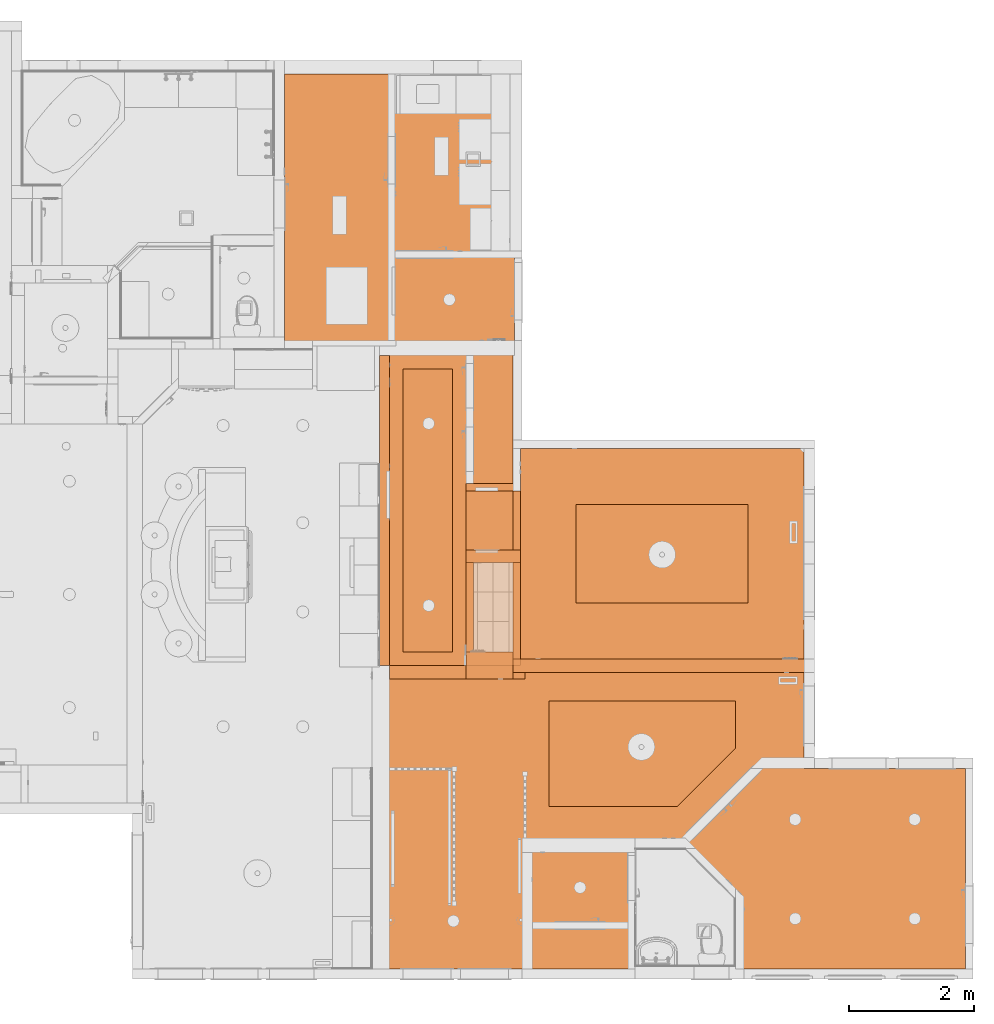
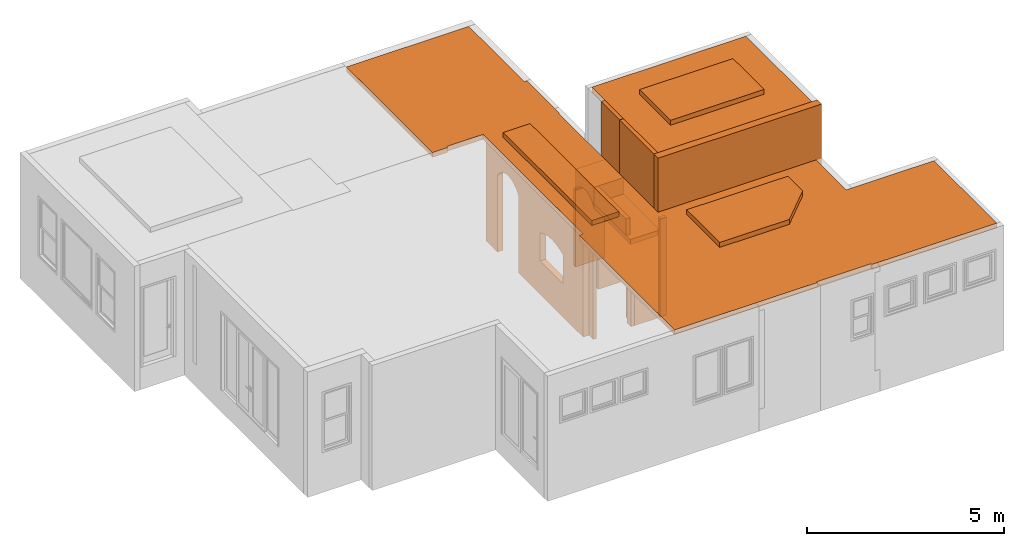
# One storey, part 83 of 103: 17 proxies.
"""IFC2X3 building model written with IfcOpenShell, lengths in inches."""

import ifcopenshell
import ifcopenshell.guid

model = None  # the IFC model being written
_history = None  # IfcOwnerHistory: only IFC2X3 demands one
_inside = {}  # id of a spatial element -> (the spatial element, [elements in it])
_under = {}  # id of a project, library or spatial element -> (it, [spatial elements below it])
_declared = {}  # id of a project -> (the project, [libraries it declares])
_typed = {}  # id of a type object -> (the type object, [elements of that type])
_made_of = {}  # id of a material, layer set ... -> (it, [elements and type objects made of it])


def new_model(schema):
    """Start an empty IFC model of exactly this schema.

    Asked for "IFC4X3", IfcOpenShell would pick the latest addendum, in which some entities
    have other attributes; the version numbers below select the first issue.
    IFC2X3 requires an IfcOwnerHistory on every rooted entity: one is made here for all.
    """
    global model, _history
    if schema == "IFC4X3":
        model = ifcopenshell.file(schema_version=(4, 3, 0, 0))
    else:
        model = ifcopenshell.file(schema=schema)
    _inside.clear()
    _under.clear()
    _declared.clear()
    _typed.clear()
    _made_of.clear()
    _history = None
    if model.schema == "IFC2X3":
        org = make("IfcOrganization", Name="unknown")
        user = make(
            "IfcPersonAndOrganization",
            ThePerson=make("IfcPerson", FamilyName="unknown"),
            TheOrganization=org,
        )
        app = make(
            "IfcApplication",
            ApplicationDeveloper=org,
            Version="unknown",
            ApplicationFullName="unknown",
            ApplicationIdentifier="unknown",
        )
        _history = make(
            "IfcOwnerHistory",
            OwningUser=user,
            OwningApplication=app,
            ChangeAction="ADDED",
            CreationDate=0,
        )
    return model


def make(cls, **values):
    """One entity of the class cls with the attributes given. An attribute that is None is left unset."""
    return model.create_entity(
        cls, **{name: value for name, value in values.items() if value is not None}
    )


def entity(cls, *values):
    """Any entity or typed value of the class cls, its attributes in the order of the schema. None: left unset."""
    e = model.create_entity(cls)
    for i, value in enumerate(values):
        if value is not None:
            e[i] = value
    return e


def rooted(cls, **values):
    """An entity with a GlobalId (a new one), such as an element, a storey or a relation."""
    return make(cls, GlobalId=ifcopenshell.guid.new(), OwnerHistory=_history, **values)


def si_unit(unit_type, name, prefix=None):
    """IfcSIUnit, for example si_unit("LENGTHUNIT", "METRE", prefix="MILLI")."""
    return make("IfcSIUnit", UnitType=unit_type, Prefix=prefix, Name=name)


def converted_unit(unit_type, name, factor, base, dimensions=None, offset=None):
    """IfcConversionBasedUnit, such as the inch: factor (a typed value) times the base unit."""
    return make(
        "IfcConversionBasedUnit"
        if offset is None
        else "IfcConversionBasedUnitWithOffset",
        ConversionOffset=offset,
        Dimensions=None
        if dimensions is None
        else entity("IfcDimensionalExponents", *dimensions),
        UnitType=unit_type,
        Name=name,
        ConversionFactor=make(
            "IfcMeasureWithUnit", ValueComponent=factor, UnitComponent=base
        ),
    )


def derived_unit(unit_type, elements):
    """IfcDerivedUnit: a product of units, each with its exponent."""
    return make(
        "IfcDerivedUnit",
        Elements=[
            make("IfcDerivedUnitElement", Unit=unit, Exponent=power)
            for unit, power in elements
        ],
        UnitType=unit_type,
    )


def money_unit(currency):
    """IfcMonetaryUnit."""
    return make("IfcMonetaryUnit", Currency=currency)


def assignment(units):
    """IfcUnitAssignment: the units of a project."""
    return None if units is None else make("IfcUnitAssignment", Units=units)


def point(xyz):
    """IfcCartesianPoint."""
    return None if xyz is None else make("IfcCartesianPoint", Coordinates=xyz)


def direction(xyz):
    """IfcDirection."""
    return None if xyz is None else make("IfcDirection", DirectionRatios=xyz)


def frame(location, z_axis=None, x_axis=None):
    """IfcAxis2Placement3D, a coordinate frame: its origin and axes. An axis left out is left unset."""
    return make(
        "IfcAxis2Placement3D",
        Location=point(location),
        Axis=direction(z_axis),
        RefDirection=direction(x_axis),
    )


def origin_with_axes():
    """The frame at (0, 0, 0) with the z axis (0, 0, 1) and the x axis (1, 0, 0) written out."""
    return frame((0.0, 0.0, 0.0), z_axis=(0.0, 0.0, 1.0), x_axis=(1.0, 0.0, 0.0))


def place(relative_to, where):
    """IfcLocalPlacement: puts the frame where relative to a parent placement (None: the world)."""
    return make(
        "IfcLocalPlacement", PlacementRelTo=relative_to, RelativePlacement=where
    )


def context(
    kind, dimensions, precision=None, world=None, true_north=None, identifier=None
):
    """IfcGeometricRepresentationContext, for example the 3D "Model" context."""
    return make(
        "IfcGeometricRepresentationContext",
        ContextIdentifier=identifier,
        ContextType=kind,
        CoordinateSpaceDimension=dimensions,
        Precision=precision,
        WorldCoordinateSystem=world,
        TrueNorth=true_north,
    )


def subcontext(parent, identifier, kind, view, scale=None):
    """IfcGeometricRepresentationSubContext, for example "Body" below "Model"."""
    return make(
        "IfcGeometricRepresentationSubContext",
        ContextIdentifier=identifier,
        ContextType=kind,
        ParentContext=parent,
        TargetScale=scale,
        TargetView=view,
    )


def project(units=None, contexts=None):
    """IfcProject with its units and contexts."""
    return rooted(
        "IfcProject",
        Name="project",
        RepresentationContexts=contexts,
        UnitsInContext=assignment(units),
    )


def spatial(cls, under=None, at=None, **own):
    """A site, building, storey or space (cls), placed at a placement, below another one or the project."""
    s = rooted(cls, ObjectPlacement=at, **own)
    if under is not None:
        _under.setdefault(under.id(), (under, []))[1].append(s)
    return s


def faces_of(points, faces, orient=None, outer=None):
    """IfcFace entities. A face is a list of loops; a loop is a list of indices into points, from 0.

    orient and outer hold one flag for each loop. By default every Orientation is true, the
    first loop of a face is its IfcFaceOuterBound and the others are IfcFaceBound.
    """
    made = []
    for i, loops in enumerate(faces):
        bounds = []
        for j, loop in enumerate(loops):
            is_outer = j == 0 if outer is None else outer[i][j]
            bounds.append(
                make(
                    "IfcFaceOuterBound" if is_outer else "IfcFaceBound",
                    Bound=make("IfcPolyLoop", Polygon=[points[k] for k in loop]),
                    Orientation=True if orient is None else orient[i][j],
                )
            )
        made.append(make("IfcFace", Bounds=bounds))
    return made


def faceted_brep(points, faces, orient=None, outer=None, voids=None):
    """IfcFacetedBrep: a solid bounded by flat faces; with voids (closed shells), ...WithVoids."""
    shared = [point(p) for p in points]
    hull = make("IfcClosedShell", CfsFaces=faces_of(shared, faces, orient, outer))
    if voids is None:
        return make("IfcFacetedBrep", Outer=hull)
    return make(
        "IfcFacetedBrepWithVoids",
        Outer=hull,
        Voids=[
            make(cls, CfsFaces=faces_of(shared, fs, o, b)) for cls, fs, o, b in voids
        ],
    )


def shape(context_of_items, identifier, shape_type, items):
    """IfcShapeRepresentation: the items that make up one representation, for example the "Body"."""
    return make(
        "IfcShapeRepresentation",
        ContextOfItems=context_of_items,
        RepresentationIdentifier=identifier,
        RepresentationType=shape_type,
        Items=items,
    )


def material(Name=None, Category=None):
    """IfcMaterial."""
    return make("IfcMaterial", Name=Name, Category=Category)


def made_of(thing, what):
    """Note that an element or type object is made of a material, layer set ...; save() writes the relation."""
    if what is not None:
        _made_of.setdefault(what.id(), (what, []))[1].append(thing)
    return thing


def type_object(cls, material=None, **own):
    """A type object (cls), such as IfcWallType, which elements share."""
    return made_of(rooted(cls, **own), material)


def element(
    cls,
    number,
    at=None,
    inside=None,
    cuts=None,
    type_object=None,
    material=None,
    context=None,
    identifier="Body",
    shape_type=None,
    held_by="IfcProductDefinitionShape",
    body=None,
    shapes=None,
    **own,
):
    """One element of the class cls, such as IfcWall. Its Tag is "e" and its number.

    at: its placement. inside: the storey or other place that contains it. cuts: it is an
    opening in that element (IfcRelVoidsElement). A single representation is given by context,
    identifier, shape_type and body (its items); several are given by shapes. held_by: the class
    of the entity that holds the representations. save() writes the other relations.
    """
    e = rooted(cls, Tag="e%d" % number, ObjectPlacement=at, **own)
    if body is not None:
        shapes = [shape(context, identifier, shape_type, body)]
    if shapes is not None:
        e.Representation = make(held_by, Representations=shapes)
    if inside is not None:
        _inside.setdefault(inside.id(), (inside, []))[1].append(e)
    if cuts is not None:
        rooted(
            "IfcRelVoidsElement", RelatingBuildingElement=cuts, RelatedOpeningElement=e
        )
    if type_object is not None:
        _typed.setdefault(type_object.id(), (type_object, []))[1].append(e)
    return made_of(e, material)


def aggregate(whole, parts):
    """IfcRelAggregates: a whole, such as a stair, and the parts it consists of."""
    return rooted("IfcRelAggregates", RelatingObject=whole, RelatedObjects=parts)


def save(model, path):
    """Write the relations noted so far, then the file.

    IfcRelAggregates (storeys below a building ...), IfcRelContainedInSpatialStructure (elements
    in a storey), IfcRelDefinesByType, IfcRelAssociatesMaterial and IfcRelDeclares: one each for
    every whole, place, type object, material and project.
    """
    for whole, parts in _under.values():
        aggregate(whole, parts)
    for where, things in _inside.values():
        rooted(
            "IfcRelContainedInSpatialStructure",
            RelatedElements=things,
            RelatingStructure=where,
        )
    for kind, things in _typed.values():
        rooted("IfcRelDefinesByType", RelatedObjects=things, RelatingType=kind)
    for what, things in _made_of.values():
        rooted("IfcRelAssociatesMaterial", RelatedObjects=things, RelatingMaterial=what)
    for by, libraries in _declared.values():
        rooted("IfcRelDeclares", RelatingContext=by, RelatedDefinitions=libraries)
    model.write(path)


model = new_model("IFC2X3")

# Units and contexts
model_context = context("Model", 3, precision=0.00039370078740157, world=origin_with_axes(), true_north=direction((0.0, 1.0)))
plan_context = context("Plan", 3, precision=0.00039370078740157, world=origin_with_axes(), true_north=direction((0.0, 1.0)))
body_context = subcontext(model_context, "Body", "Model", "MODEL_VIEW")
ifc_project = project(units=[converted_unit("LENGTHUNIT", "INCH", entity("IfcPositiveLengthMeasure", 0.0254), si_unit("LENGTHUNIT", "METRE"), dimensions=[1, 0, 0, 0, 0, 0, 0]), converted_unit("AREAUNIT", "SQUARE_FOOT", entity("IfcPositiveLengthMeasure", 0.09290304), si_unit("AREAUNIT", "SQUARE_METRE"), dimensions=[2, 0, 0, 0, 0, 0, 0]), si_unit("PLANEANGLEUNIT", "RADIAN"), si_unit("SOLIDANGLEUNIT", "STERADIAN"), money_unit("USD"), converted_unit("TIMEUNIT", "Year", entity("IfcTimeMeasure", 31557600.0), si_unit("TIMEUNIT", "SECOND"), dimensions=[0, 0, 1, 0, 0, 0, 0]), si_unit("MASSUNIT", "GRAM", prefix="KILO"), si_unit("THERMODYNAMICTEMPERATUREUNIT", "DEGREE_CELSIUS"), si_unit("LUMINOUSINTENSITYUNIT", "LUMEN"), si_unit("ENERGYUNIT", "JOULE", prefix="MEGA"), derived_unit("SPECIFICHEATCAPACITYUNIT", [(si_unit("ENERGYUNIT", "JOULE"), 1), (si_unit("MASSUNIT", "GRAM", prefix="KILO"), -1), (si_unit("THERMODYNAMICTEMPERATUREUNIT", "KELVIN"), -1)])], contexts=[model_context, plan_context])

# Site, building, storey
site_placement = place(None, origin_with_axes())
site = spatial("IfcSite", under=ifc_project, at=site_placement, Name="Site", CompositionType="ELEMENT")
building_placement = place(site_placement, origin_with_axes())
building = spatial("IfcBuilding", under=site, at=building_placement, Name="Building", CompositionType="ELEMENT")
storey_placement = place(building_placement, frame((0.0, 0.0, 127.9999999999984), z_axis=(0.0, 0.0, 1.0), x_axis=(1.0, 0.0, 0.0)))
storey = spatial("IfcBuildingStorey", under=building, at=storey_placement, Name="Second Floor", CompositionType="ELEMENT", Elevation=128.0)

# Proxies
ifc_material = material(Name="Generic - Structural")
building_element_proxy_type_1 = type_object("IfcBuildingElementProxyType", Name="Generic - Structural 6 1/2\"", PredefinedType="NOTDEFINED")
proxy_1_placement = place(storey_placement, frame((161.4999999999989, 401.0009092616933, 0.0), z_axis=(0.0, 0.0, 1.0), x_axis=(0.0, -1.0, 0.0)))
element("IfcBuildingElementProxy", 1, at=proxy_1_placement, inside=storey, type_object=building_element_proxy_type_1, material=ifc_material, Name="SW - 105", context=body_context, shape_type="Brep", body=[
    faceted_brep([(37.94409218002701, 0.0, 100.3900224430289), (34.94536250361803, 0.0, 97.43108457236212), (32.50090926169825, 0.0, 93.99999999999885), (32.50090926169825, 0.0, 0.0), (9.499999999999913, 0.0, 0.0), (9.499999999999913, 0.0, 119.9999999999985), (204.0009092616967, 0.0, 119.9999999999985), (204.0009092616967, 0.0, 0.0), (74.50090926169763, 0.0, 0.0), (74.50090926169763, 0.0, 93.99999999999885), (72.05645601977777, 0.0, 97.43108457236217), (69.05772634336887, 0.0, 100.3900224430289), (65.59429588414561, 0.0, 102.7884265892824), (61.76962146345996, 0.0, 104.5546538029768), (57.69795069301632, 0.0, 105.635944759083), (53.50090926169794, 0.0, 105.9999999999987), (49.30386783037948, 0.0, 105.635944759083), (45.23219705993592, 0.0, 104.5546538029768), (41.40752263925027, 0.0, 102.7884265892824), (156.6547561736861, 0.0, 78.53041484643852), (148.9260549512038, 0.0, 80.37880786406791), (141.0037131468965, 0.0, 80.99999999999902), (133.0813713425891, 0.0, 80.37880786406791), (125.3526701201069, 0.0, 78.53041484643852), (118.0065170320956, 0.0, 75.49999999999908), (118.0065170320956, 0.0, 40.99999999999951), (164.0009092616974, 0.0, 40.99999999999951), (164.0009092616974, 0.0, 75.49999999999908), (37.94409218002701, -6.49999999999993, 100.3900224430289), (34.94536250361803, -6.49999999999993, 97.43108457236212), (32.50090926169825, -6.49999999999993, 93.99999999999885), (32.50090926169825, -6.499999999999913, 0.0), (9.499999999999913, -6.499999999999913, 0.0), (9.499999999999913, -6.499999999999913, 119.9999999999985), (204.0009092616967, -6.499999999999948, 119.9999999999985), (204.0009092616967, -6.499999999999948, 0.0), (74.50090926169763, -6.49999999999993, 0.0), (74.50090926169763, -6.49999999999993, 93.99999999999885), (72.05645601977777, -6.49999999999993, 97.43108457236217), (69.05772634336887, -6.49999999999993, 100.3900224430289), (65.59429588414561, -6.49999999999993, 102.7884265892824), (61.76962146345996, -6.49999999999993, 104.5546538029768), (57.69795069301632, -6.49999999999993, 105.635944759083), (53.50090926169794, -6.49999999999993, 105.9999999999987), (49.30386783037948, -6.49999999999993, 105.635944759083), (45.23219705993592, -6.49999999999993, 104.5546538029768), (41.40752263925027, -6.49999999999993, 102.7884265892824), (156.6547561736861, -6.49999999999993, 78.53041484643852), (148.9260549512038, -6.49999999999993, 80.37880786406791), (141.0037131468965, -6.49999999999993, 80.99999999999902), (133.0813713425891, -6.49999999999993, 80.37880786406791), (125.3526701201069, -6.49999999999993, 78.53041484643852), (118.0065170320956, -6.49999999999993, 75.49999999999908), (118.0065170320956, -6.49999999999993, 40.99999999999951), (164.0009092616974, -6.499999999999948, 40.99999999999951), (164.0009092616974, -6.49999999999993, 75.49999999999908)], [[[0, 1, 2, 3, 4, 5, 6, 7, 8, 9, 10, 11, 12, 13, 14, 15, 16, 17, 18], [19, 20, 21, 22, 23, 24, 25, 26, 27]], [[1, 0, 28, 29]], [[2, 1, 29, 30]], [[3, 2, 30, 31]], [[3, 31, 32, 4]], [[32, 33, 5, 4]], [[5, 33, 34, 6]], [[6, 34, 35, 7]], [[36, 8, 7, 35]], [[9, 8, 36, 37]], [[10, 9, 37, 38]], [[11, 10, 38, 39]], [[12, 11, 39, 40]], [[13, 12, 40, 41]], [[14, 13, 41, 42]], [[15, 14, 42, 43]], [[16, 15, 43, 44]], [[17, 16, 44, 45]], [[18, 17, 45, 46]], [[0, 18, 46, 28]], [[19, 47, 48, 20]], [[20, 48, 49, 21]], [[21, 49, 50, 22]], [[22, 50, 51, 23]], [[23, 51, 52, 24]], [[24, 52, 53, 25]], [[25, 53, 54, 26]], [[26, 54, 55, 27]], [[27, 55, 47, 19]], [[37, 36, 35, 34, 33, 32, 31, 30, 29, 28, 46, 45, 44, 43, 42, 41, 40, 39, 38], [48, 47, 55, 54, 53, 52, 51, 50, 49]]]),
])
building_element_proxy_type_2 = type_object("IfcBuildingElementProxyType", Name="Generic - Structural 4 1/2\"", PredefinedType="NOTDEFINED")
proxy_2_placement = place(storey_placement, frame((243.4999999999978, 269.5028415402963, 119.9999999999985), z_axis=(0.0, 0.0, 1.0), x_axis=(0.0, 1.0, 0.0)))
element("IfcBuildingElementProxy", 2, at=proxy_2_placement, inside=storey, type_object=building_element_proxy_type_2, material=ifc_material, Name="SW - 106", context=body_context, shape_type="Brep", body=[
    faceted_brep([(0.0, 0.0, 71.99999999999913), (36.99715507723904, 0.0, 71.99999999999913), (36.99715507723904, 4.499999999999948, 71.99999999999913), (0.0, 4.499999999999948, 71.99999999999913), (0.0, 0.0, 0.0), (36.99715507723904, 0.0, 0.0), (36.99715507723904, 4.499999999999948, 0.0), (0.0, 4.499999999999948, 0.0)], [[[0, 1, 2, 3]], [[4, 5, 1, 0]], [[2, 1, 5, 6]], [[3, 2, 6, 7]], [[4, 0, 3, 7]], [[7, 6, 5, 4]]]),
])
proxy_3_placement = place(storey_placement, frame((209.4999999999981, 306.4999999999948, 0.0), z_axis=(0.0, 0.0, 1.0), x_axis=(1.0, 0.0, 0.0)))
element("IfcBuildingElementProxy", 3, at=proxy_3_placement, inside=storey, type_object=building_element_proxy_type_2, material=ifc_material, Name="SW - 015", context=body_context, shape_type="Brep", body=[
    faceted_brep([(33.99999999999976, 0.0, 93.99999999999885), (33.99999999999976, 4.499999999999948, 93.99999999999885), (0.0, 4.499999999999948, 93.99999999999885), (0.0, 0.0, 93.99999999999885), (33.99999999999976, 0.0, 0.0), (33.99999999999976, 4.499999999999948, 0.0), (0.0, 4.499999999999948, 0.0), (0.0, 0.0, 0.0)], [[[0, 1, 2, 3]], [[1, 0, 4, 5]], [[1, 5, 6, 2]], [[7, 3, 2, 6]], [[4, 0, 3, 7]], [[5, 4, 7, 6]]]),
])
proxy_4_placement = place(storey_placement, frame((243.4999999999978, 269.5028415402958, 0.0), z_axis=(0.0, 0.0, 1.0), x_axis=(0.0, -1.0, 0.0)))
element("IfcBuildingElementProxy", 4, at=proxy_4_placement, inside=storey, type_object=building_element_proxy_type_2, material=ifc_material, Name="W-03", context=body_context, shape_type="Brep", body=[
    faceted_brep([(64.00284154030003, -4.500000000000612, 0.0), (64.00284154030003, -4.500000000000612, 93.99999999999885), (64.0028415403, 0.0, 93.99999999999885), (64.0028415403, 0.0, 0.0), (68.50284154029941, -4.500000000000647, 0.0), (68.50284154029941, -4.500000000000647, 93.99999999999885), (68.50284154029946, 0.0, 93.99999999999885), (68.50284154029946, 0.0, 0.0)], [[[0, 1, 2, 3]], [[4, 5, 1, 0]], [[5, 6, 2, 1]], [[3, 2, 6, 7]], [[3, 7, 4, 0]], [[7, 6, 5, 4]]]),
    faceted_brep([(68.50284154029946, 0.0, 191.9999999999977), (68.50284154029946, 0.0, 99.99999999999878), (-6.705586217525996e-08, 0.0, 99.99999999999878), (0.0, 0.0, 119.9999999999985), (0.0, 0.0, 191.9999999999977), (68.50284154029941, -4.500000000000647, 191.9999999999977), (68.50284154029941, -4.500000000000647, 99.99999999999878), (-6.705589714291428e-08, -4.499999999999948, 99.99999999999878), (0.0, -4.499999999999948, 119.9999999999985), (0.0, -4.499999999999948, 191.9999999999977)], [[[0, 1, 2, 3, 4]], [[5, 6, 1, 0]], [[6, 7, 2, 1]], [[3, 2, 7, 8]], [[3, 8, 9, 4]], [[4, 9, 5, 0]], [[8, 7, 6, 5, 9]]]),
])
proxy_5_placement = place(storey_placement, frame((209.4999999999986, 269.5028415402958, 0.0), z_axis=(0.0, 0.0, 1.0), x_axis=(0.0, -1.0, 0.0)))
element("IfcBuildingElementProxy", 5, at=proxy_5_placement, inside=storey, type_object=building_element_proxy_type_2, material=ifc_material, Name="W-03", context=body_context, shape_type="Brep", body=[
    faceted_brep([(64.00284154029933, 4.500000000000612, 119.9999999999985), (64.00284154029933, 4.500000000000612, 99.99999999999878), (-6.705589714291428e-08, 4.499999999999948, 99.99999999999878), (0.0, 4.499999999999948, 119.9999999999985), (64.00284154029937, 0.0, 119.9999999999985), (64.00284154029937, 0.0, 99.99999999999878), (-6.705586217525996e-08, 0.0, 99.99999999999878), (0.0, 0.0, 119.9999999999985)], [[[0, 1, 2, 3]], [[4, 5, 1, 0]], [[5, 6, 2, 1]], [[3, 2, 6, 7]], [[3, 7, 4, 0]], [[7, 6, 5, 4]]]),
])
building_element_proxy_type_3 = type_object("IfcBuildingElementProxyType", Name="Generic - Structural 8 1/2\"", PredefinedType="NOTDEFINED")
proxy_6_placement = place(storey_placement, frame((150.4999999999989, 188.4999999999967, 0.0), z_axis=(0.0, 0.0, 1.0), x_axis=(1.0, 0.0, 0.0)))
element("IfcBuildingElementProxy", 6, at=proxy_6_placement, inside=storey, type_object=building_element_proxy_type_3, material=ifc_material, Name="SW - 090", context=body_context, shape_type="Brep", body=[
    faceted_brep([(14.99999999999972, 8.499999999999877, 93.99999999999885), (14.99999999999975, 8.499999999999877, 0.0), (10.99999999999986, 8.499999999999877, 0.0), (10.99999999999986, 8.499999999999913, 119.9999999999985), (58.99999999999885, 8.499999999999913, 119.9999999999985), (58.99999999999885, 8.499999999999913, 0.0), (54.99999999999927, 8.499999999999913, 0.0), (54.99999999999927, 8.499999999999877, 93.99999999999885), (51.89106828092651, 8.499999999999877, 97.4307301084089), (48.20283060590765, 8.499999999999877, 100.2293491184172), (44.06178093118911, 8.499999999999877, 102.2998739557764), (39.6099431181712, 8.499999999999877, 103.5712926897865), (34.99999999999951, 8.499999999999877, 103.9999999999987), (30.39005688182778, 8.499999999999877, 103.5712926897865), (25.93821906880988, 8.499999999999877, 102.2998739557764), (21.79716939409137, 8.499999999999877, 100.2293491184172), (18.10893171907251, 8.499999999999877, 97.4307301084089), (14.99999999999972, 0.0, 93.99999999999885), (14.99999999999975, 0.0, 0.0), (10.99999999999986, 0.0, 0.0), (10.99999999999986, 0.0, 119.9999999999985), (58.99999999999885, 0.0, 119.9999999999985), (58.99999999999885, 0.0, 0.0), (54.99999999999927, 0.0, 0.0), (54.99999999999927, 0.0, 93.99999999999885), (51.89106828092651, 0.0, 97.4307301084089), (48.20283060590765, 0.0, 100.2293491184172), (44.06178093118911, 0.0, 102.2998739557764), (39.6099431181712, 0.0, 103.5712926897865), (34.99999999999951, 0.0, 103.9999999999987), (30.39005688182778, 0.0, 103.5712926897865), (25.93821906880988, 0.0, 102.2998739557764), (21.79716939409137, 0.0, 100.2293491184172), (18.10893171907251, 0.0, 97.4307301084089)], [[[0, 1, 2, 3, 4, 5, 6, 7, 8, 9, 10, 11, 12, 13, 14, 15, 16]], [[1, 0, 17, 18]], [[1, 18, 19, 2]], [[3, 2, 19, 20]], [[20, 21, 4, 3]], [[4, 21, 22, 5]], [[23, 6, 5, 22]], [[7, 6, 23, 24]], [[8, 7, 24, 25]], [[9, 8, 25, 26]], [[10, 9, 26, 27]], [[11, 10, 27, 28]], [[12, 11, 28, 29]], [[13, 12, 29, 30]], [[14, 13, 30, 31]], [[15, 14, 31, 32]], [[16, 15, 32, 33]], [[0, 16, 33, 17]], [[24, 23, 22, 21, 20, 19, 18, 17, 33, 32, 31, 30, 29, 28, 27, 26, 25]]]),
])
proxy_7_placement = place(storey_placement, frame((243.4999999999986, 200.9999999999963, 0.0), z_axis=(0.0, 0.0, 1.0), x_axis=(1.0, 0.0, 0.0)))
element("IfcBuildingElementProxy", 7, at=proxy_7_placement, inside=storey, type_object=building_element_proxy_type_3, material=ifc_material, Name="SW - 092", context=body_context, shape_type="Brep", body=[
    faceted_brep([(14.99999999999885, 0.0, 45.99999999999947), (14.99999999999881, 0.0, 0.0), (-4.500000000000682, 0.0, 0.0), (-4.500000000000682, 0.0, 93.99999999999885), (0.0, 0.0, 93.99999999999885), (0.0, 0.0, 99.99999999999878), (-4.500000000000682, 0.0, 99.99999999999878), (-4.500000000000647, 0.0, 191.9999999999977), (184.4999999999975, 0.0, 191.9999999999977), (184.4999999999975, 0.0, 0.0), (160.9999999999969, 0.0, 0.0), (160.9999999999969, 0.0, 45.99999999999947), (158.8722086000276, 0.0, 54.25728198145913), (155.8136776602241, 0.0, 62.2169044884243), (151.8645737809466, 0.0, 69.77433662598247), (147.0767591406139, 0.0, 76.83032932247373), (141.5131104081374, 0.0, 83.29221873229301), (135.2466930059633, 0.0, 89.07514315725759), (128.3598015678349, 0.0, 94.10315750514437), (120.9428791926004, 0.0, 98.31023064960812), (113.093329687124, 0.0, 101.6411125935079), (104.9142383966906, 0.0, 104.052060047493), (96.51301842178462, 0.0, 105.5114108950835), (87.99999999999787, 0.0, 105.9999999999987), (79.48698157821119, 0.0, 105.5114108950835), (71.0857616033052, 0.0, 104.052060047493), (62.90667031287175, 0.0, 101.6411125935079), (55.05712080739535, 0.0, 98.31023064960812), (47.64019843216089, 0.0, 94.10315750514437), (40.75330699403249, 0.0, 89.07514315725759), (34.4868895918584, 0.0, 83.29221873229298), (28.92324085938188, 0.0, 76.8303293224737), (24.13542621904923, 0.0, 69.77433662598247), (20.18632233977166, 0.0, 62.2169044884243), (17.12779139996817, 0.0, 54.25728198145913), (14.99999999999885, -8.499999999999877, 45.99999999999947), (14.99999999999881, -8.499999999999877, 0.0), (-4.500000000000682, -8.499999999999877, 0.0), (-4.500000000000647, -8.499999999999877, 191.9999999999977), (-4.500000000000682, -3.9687499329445, 99.99999999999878), (-4.500000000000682, -3.9687499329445, 93.99999999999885), (0.0, -3.9687499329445, 93.99999999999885), (0.0, -3.9687499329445, 99.99999999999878), (184.4999999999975, -8.499999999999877, 191.9999999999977), (184.4999999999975, -8.499999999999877, 0.0), (160.9999999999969, -8.499999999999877, 0.0), (160.9999999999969, -8.499999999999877, 45.99999999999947), (158.8722086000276, -8.499999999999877, 54.25728198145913), (155.8136776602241, -8.499999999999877, 62.2169044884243), (151.8645737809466, -8.499999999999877, 69.77433662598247), (147.0767591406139, -8.499999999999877, 76.83032932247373), (141.5131104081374, -8.499999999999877, 83.29221873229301), (135.2466930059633, -8.499999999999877, 89.07514315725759), (128.3598015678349, -8.499999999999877, 94.10315750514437), (120.9428791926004, -8.499999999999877, 98.31023064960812), (113.093329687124, -8.499999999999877, 101.6411125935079), (104.9142383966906, -8.499999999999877, 104.052060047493), (96.51301842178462, -8.499999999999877, 105.5114108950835), (87.99999999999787, -8.499999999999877, 105.9999999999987), (79.48698157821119, -8.499999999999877, 105.5114108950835), (71.0857616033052, -8.499999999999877, 104.052060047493), (62.90667031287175, -8.499999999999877, 101.6411125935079), (55.05712080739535, -8.499999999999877, 98.31023064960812), (47.64019843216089, -8.499999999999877, 94.10315750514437), (40.75330699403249, -8.499999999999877, 89.07514315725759), (34.4868895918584, -8.499999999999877, 83.29221873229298), (28.92324085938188, -8.499999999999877, 76.8303293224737), (24.13542621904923, -8.499999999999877, 69.77433662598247), (20.18632233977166, -8.499999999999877, 62.2169044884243), (17.12779139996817, -8.499999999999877, 54.25728198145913)], [[[0, 1, 2, 3, 4, 5, 6, 7, 8, 9, 10, 11, 12, 13, 14, 15, 16, 17, 18, 19, 20, 21, 22, 23, 24, 25, 26, 27, 28, 29, 30, 31, 32, 33, 34]], [[1, 0, 35, 36]], [[1, 36, 37, 2]], [[38, 7, 6, 39, 40, 3, 2, 37]], [[4, 3, 40, 41]], [[5, 4, 41, 42]], [[6, 5, 42, 39]], [[43, 8, 7, 38]], [[8, 43, 44, 9]], [[45, 10, 9, 44]], [[11, 10, 45, 46]], [[12, 11, 46, 47]], [[13, 12, 47, 48]], [[14, 13, 48, 49]], [[15, 14, 49, 50]], [[16, 15, 50, 51]], [[17, 16, 51, 52]], [[18, 17, 52, 53]], [[19, 18, 53, 54]], [[20, 19, 54, 55]], [[21, 20, 55, 56]], [[22, 21, 56, 57]], [[23, 22, 57, 58]], [[24, 23, 58, 59]], [[25, 24, 59, 60]], [[26, 25, 60, 61]], [[27, 26, 61, 62]], [[28, 27, 62, 63]], [[29, 28, 63, 64]], [[30, 29, 64, 65]], [[31, 30, 65, 66]], [[32, 31, 66, 67]], [[33, 32, 67, 68]], [[34, 33, 68, 69]], [[0, 34, 69, 35]], [[46, 45, 44, 43, 38, 37, 36, 35, 69, 68, 67, 66, 65, 64, 63, 62, 61, 60, 59, 58, 57, 56, 55, 54, 53, 52, 51, 50, 49, 48, 47]], [[40, 39, 42, 41]]]),
])
building_element_proxy_type_4 = type_object("IfcBuildingElementProxyType", Name="Generic - Structural 6\"", PredefinedType="NOTDEFINED")
proxy_8_placement = place(storey_placement, frame((261.5999798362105, 108.4999988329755, 125.9999999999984), z_axis=(0.0, 0.0, 1.0), x_axis=(1.0, 0.0, 0.0)))
element("IfcBuildingElementProxy", 8, at=proxy_8_placement, inside=storey, type_object=building_element_proxy_type_4, material=ifc_material, Name="SLA - 016", context=body_context, shape_type="Brep", body=[
    faceted_brep([(0.0, 0.0, 5.99999999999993), (0.0, 0.0, 0.0), (80.50572803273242, 0.0, 0.0), (80.50572803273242, 0.0, 5.99999999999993), (0.0, 65.99999999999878, 5.99999999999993), (0.0, 65.99999999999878, 0.0), (117.0000052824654, 65.99999999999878, 0.0), (117.0000052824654, 36.4942772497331, 0.0), (117.0000052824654, 36.4942772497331, 5.99999999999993), (117.0000052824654, 65.99999999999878, 5.99999999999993)], [[[0, 1, 2, 3]], [[4, 5, 1, 0]], [[2, 1, 5, 6, 7]], [[3, 2, 7, 8]], [[4, 0, 3, 8, 9]], [[9, 6, 5, 4]], [[8, 7, 6, 9]]]),
])
proxy_9_placement = place(storey_placement, frame((278.4999996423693, 235.9999994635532, 191.9999999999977), z_axis=(0.0, 0.0, 1.0), x_axis=(1.0, 0.0, 0.0)))
element("IfcBuildingElementProxy", 9, at=proxy_9_placement, inside=storey, type_object=building_element_proxy_type_4, material=ifc_material, Name="SLA - 017", context=body_context, shape_type="Brep", body=[
    faceted_brep([(0.0, 0.0, 5.99999999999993), (0.0, 0.0, 0.0), (108.0000008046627, 0.0, 0.0), (108.0000008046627, 0.0, 5.99999999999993), (0.0, 62.00000004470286, 5.99999999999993), (0.0, 62.00000004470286, 0.0), (108.0000008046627, 62.00000004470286, 0.0), (108.0000008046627, 62.00000004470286, 5.99999999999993)], [[[0, 1, 2, 3]], [[4, 5, 1, 0]], [[2, 1, 5, 6]], [[3, 2, 6, 7]], [[4, 0, 3, 7]], [[7, 6, 5, 4]]]),
])
proxy_10_placement = place(storey_placement, frame((243.4999999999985, 269.502841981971, 185.9999999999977), z_axis=(0.0, 0.0, 1.0), x_axis=(1.0, 0.0, 0.0)))
element("IfcBuildingElementProxy", 10, at=proxy_10_placement, inside=storey, type_object=building_element_proxy_type_4, material=ifc_material, Name="SLA - 007", context=body_context, shape_type="Brep", body=[
    faceted_brep([(0.0, -68.5028419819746, 5.999999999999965), (0.0, -68.5028419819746, 0.0), (177.9999999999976, -68.5028419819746, 0.0), (177.9999999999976, -68.5028419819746, 5.999999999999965), (0.0, 63.49715694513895, 5.999999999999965), (0.0, 63.49715694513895, 0.0), (177.9999999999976, 63.49715694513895, 0.0), (34.99999850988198, -33.50284347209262, 0.0), (143.0000014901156, -33.50284347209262, 0.0), (143.0000014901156, 28.49715843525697, 0.0), (34.99999850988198, 28.49715843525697, 0.0), (177.9999999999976, 63.49715694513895, 5.999999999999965), (143.0000014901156, 28.49715843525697, 5.999999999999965), (143.0000014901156, -33.50284347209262, 5.999999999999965), (34.99999850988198, -33.50284347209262, 5.999999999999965), (34.99999850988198, 28.49715843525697, 5.999999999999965)], [[[0, 1, 2, 3]], [[4, 5, 1, 0]], [[1, 5, 6, 2], [7, 8, 9, 10]], [[3, 2, 6, 11]], [[4, 0, 3, 11], [12, 13, 14, 15]], [[11, 6, 5, 4]], [[13, 8, 7, 14]], [[12, 9, 8, 13]], [[15, 10, 9, 12]], [[14, 7, 10, 15]]]),
])
proxy_11_placement = place(storey_placement, frame((95.50000348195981, 568.0000000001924, 119.9999999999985), z_axis=(0.0, 0.0, 1.0), x_axis=(1.0, 0.0, 0.0)))
element("IfcBuildingElementProxy", 11, at=proxy_11_placement, inside=storey, type_object=building_element_proxy_type_4, material=ifc_material, Name="SLA - 006", context=body_context, shape_type="Brep", body=[
    faceted_brep([(0.0, 0.0, 5.99999999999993), (0.0, 0.0, 0.0), (4.231933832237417e-05, -172.4990906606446, 0.0), (4.231933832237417e-05, -172.4990906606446, 5.99999999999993), (141.49999759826, 0.0, 5.99999999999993), (141.49999759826, 0.0, 0.0), (141.49999759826, -111.0000018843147, 0.0), (144.4999985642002, -111.0000018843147, 0.0), (144.4999985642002, -176.4990891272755, 0.0), (143.4999925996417, -176.4990891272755, 0.0), (143.5000010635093, -375.5000052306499, 0.0), (325.9999965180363, -375.5000052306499, 0.0), (325.9999965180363, -435.7500000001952, 0.0), (427.499996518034, -435.7500000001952, 0.0), (427.499996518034, -561.5000000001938, 0.0), (282.99999519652, -561.5000000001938, 0.0), (282.99999519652, -560.0000000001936, 0.0), (220.00000030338, -560.0000000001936, 0.0), (220.00000030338, -561.5000000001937, 0.0), (54.99998977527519, -561.5000000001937, 0.0), (54.99999795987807, -371.0000037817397, 0.0), (59.49999094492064, -371.0000037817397, 0.0), (59.49999094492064, -170.4990871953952, 0.0), (17.49999434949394, -170.4990871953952, 0.0), (17.5000112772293, -172.4990906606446, 0.0), (105.499994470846, -184.9990890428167, 0.0), (74.50000423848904, -184.9990890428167, 0.0), (74.50000423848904, -362.4999954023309, 0.0), (105.499994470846, -362.4999954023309, 0.0), (283.0999873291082, -393.5000110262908, 0.0), (166.0999750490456, -393.5000110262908, 0.0), (166.0999750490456, -459.4999984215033, 0.0), (246.6057027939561, -459.4999984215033, 0.0), (283.0999873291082, -423.0057223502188, 0.0), (17.5000112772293, -172.4990906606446, 5.99999999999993), (17.49999434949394, -170.4990871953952, 5.99999999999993), (59.49999094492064, -170.4990871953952, 5.99999999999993), (59.49999094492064, -371.0000037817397, 5.99999999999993), (54.99999795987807, -371.0000037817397, 5.99999999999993), (54.99998977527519, -561.5000000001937, 5.99999999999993), (220.00000030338, -561.5000000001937, 5.99999999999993), (220.00000030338, -560.0000000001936, 5.99999999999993), (282.99999519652, -560.0000000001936, 5.99999999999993), (282.99999519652, -561.5000000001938, 5.99999999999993), (427.499996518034, -561.5000000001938, 5.99999999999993), (427.499996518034, -435.7500000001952, 5.99999999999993), (325.9999965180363, -435.7500000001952, 5.99999999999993), (325.9999965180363, -375.5000052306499, 5.99999999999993), (143.5000010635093, -375.5000052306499, 5.99999999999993), (143.4999925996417, -176.4990891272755, 5.99999999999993), (144.4999985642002, -176.4990891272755, 5.99999999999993), (144.4999985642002, -111.0000018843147, 5.99999999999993), (141.49999759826, -111.0000018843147, 5.99999999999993), (74.50000423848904, -362.4999954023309, 5.99999999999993), (74.50000423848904, -184.9990890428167, 5.99999999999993), (105.499994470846, -184.9990890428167, 5.99999999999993), (105.499994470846, -362.4999954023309, 5.99999999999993), (166.0999750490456, -459.4999984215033, 5.99999999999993), (166.0999750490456, -393.5000110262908, 5.99999999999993), (283.0999873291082, -393.5000110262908, 5.99999999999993), (283.0999873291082, -423.0057223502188, 5.99999999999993), (246.6057027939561, -459.4999984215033, 5.99999999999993)], [[[0, 1, 2, 3]], [[4, 5, 1, 0]], [[2, 1, 5, 6, 7, 8, 9, 10, 11, 12, 13, 14, 15, 16, 17, 18, 19, 20, 21, 22, 23, 24], [25, 26, 27, 28], [29, 30, 31, 32, 33]], [[3, 2, 24, 34]], [[4, 0, 3, 34, 35, 36, 37, 38, 39, 40, 41, 42, 43, 44, 45, 46, 47, 48, 49, 50, 51, 52], [53, 54, 55, 56], [57, 58, 59, 60, 61]], [[52, 6, 5, 4]], [[51, 7, 6, 52]], [[50, 8, 7, 51]], [[49, 9, 8, 50]], [[48, 10, 9, 49]], [[47, 11, 10, 48]], [[46, 12, 11, 47]], [[45, 13, 12, 46]], [[44, 14, 13, 45]], [[43, 15, 14, 44]], [[42, 16, 15, 43]], [[41, 17, 16, 42]], [[40, 18, 17, 41]], [[39, 19, 18, 40]], [[38, 20, 19, 39]], [[37, 21, 20, 38]], [[36, 22, 21, 37]], [[35, 23, 22, 36]], [[34, 24, 23, 35]], [[54, 26, 25, 55]], [[53, 27, 26, 54]], [[56, 28, 27, 53]], [[55, 25, 28, 56]], [[58, 30, 29, 59]], [[57, 31, 30, 58]], [[61, 32, 31, 57]], [[60, 33, 32, 61]], [[59, 29, 33, 60]]]),
])
proxy_12_placement = place(storey_placement, frame((169.9999999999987, 205.4999999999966, 125.9999999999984), z_axis=(0.0, 0.0, 1.0), x_axis=(1.0, 0.0, 0.0)))
element("IfcBuildingElementProxy", 12, at=proxy_12_placement, inside=storey, type_object=building_element_proxy_type_4, material=ifc_material, Name="SLA - 018", context=body_context, shape_type="Brep", body=[
    faceted_brep([(0.0, 0.0, 5.99999999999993), (0.0, 0.0, 0.0), (31.00000000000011, 0.0, 0.0), (31.00000000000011, 0.0, 5.99999999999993), (0.0, 177.5009092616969, 5.99999999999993), (0.0, 177.5009092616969, 0.0), (31.00000000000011, 177.5009092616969, 0.0), (31.00000000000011, 177.5009092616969, 5.99999999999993)], [[[0, 1, 2, 3]], [[4, 5, 1, 0]], [[2, 1, 5, 6]], [[3, 2, 6, 7]], [[4, 0, 3, 7]], [[7, 6, 5, 4]]]),
])
building_element_proxy_type_5 = type_object("IfcBuildingElementProxyType", Name="Generic - Structural 8\"", PredefinedType="NOTDEFINED")
proxy_13_placement = place(storey_placement, frame((209.4999999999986, 269.5028415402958, 0.0), z_axis=(0.0, 0.0, 1.0), x_axis=(1.0, 0.0, 0.0)))
element("IfcBuildingElementProxy", 13, at=proxy_13_placement, inside=storey, type_object=building_element_proxy_type_5, material=ifc_material, Name="SW - 018", context=body_context, shape_type="Brep", body=[
    faceted_brep([(0.0, -7.999999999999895, 93.99999999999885), (33.99999999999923, -7.999999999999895, 93.99999999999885), (33.99999999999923, 0.0, 93.99999999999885), (0.0, 0.0, 93.99999999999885), (0.0, -7.999999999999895, 0.0), (33.99999999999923, -7.999999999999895, 0.0), (33.99999999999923, 0.0, 0.0), (0.0, 0.0, 0.0)], [[[0, 1, 2, 3]], [[4, 5, 1, 0]], [[5, 6, 2, 1]], [[3, 2, 6, 7]], [[4, 0, 3, 7]], [[7, 6, 5, 4]]]),
])
building_element_proxy_type_6 = type_object("IfcBuildingElementProxyType", Name="Generic - Structural 4\"", PredefinedType="NOTDEFINED")
proxy_14_placement = place(storey_placement, frame((238.9999999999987, 188.4999983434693, 0.0), z_axis=(0.0, 0.0, 1.0), x_axis=(1.0, 0.0, 0.0)))
element("IfcBuildingElementProxy", 14, at=proxy_14_placement, inside=storey, type_object=building_element_proxy_type_6, material=ifc_material, Name="SW - 020", context=body_context, shape_type="Brep", body=[
    faceted_brep([(0.0, 0.0, 119.9999999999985), (7.499999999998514, 0.0, 119.9999999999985), (7.499999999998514, 3.999999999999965, 119.9999999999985), (0.0, 3.999999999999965, 119.9999999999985), (0.0, 0.0, 0.0), (7.499999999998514, 0.0, 0.0), (7.499999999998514, 3.999999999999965, 0.0), (0.0, 3.999999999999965, 0.0)], [[[0, 1, 2, 3]], [[4, 5, 1, 0]], [[2, 1, 5, 6]], [[3, 2, 6, 7]], [[4, 0, 3, 7]], [[7, 6, 5, 4]]]),
])
building_element_proxy_type_7 = type_object("IfcBuildingElementProxyType", Name="Generic Floor/Ceiling Slab 6\" 6\"", PredefinedType="NOTDEFINED")
proxy_15_placement = place(storey_placement, frame((209.4999999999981, 197.0312500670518, 93.99999999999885), z_axis=(0.0, 0.0, 1.0), x_axis=(1.0, 0.0, 0.0)))
element("IfcBuildingElementProxy", 15, at=proxy_15_placement, inside=storey, type_object=building_element_proxy_type_7, material=ifc_material, Name="SLA - 008", context=body_context, shape_type="Brep", body=[
    faceted_brep([(0.0, 0.0, 5.99999999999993), (0.0, 0.0, 0.0), (33.99999999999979, 0.0, 0.0), (33.99999999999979, 0.0, 5.99999999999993), (0.0, 72.47159154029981, 5.99999999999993), (0.0, 72.47159154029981, 0.0), (33.99999999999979, 72.47159154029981, 0.0), (33.99999999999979, 72.47159154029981, 5.99999999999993)], [[[0, 1, 2, 3]], [[4, 5, 1, 0]], [[2, 1, 5, 6]], [[3, 2, 6, 7]], [[4, 0, 3, 7]], [[7, 6, 5, 4]]]),
])
building_element_proxy_type_8 = type_object("IfcBuildingElementProxyType", Name="Generic - Structural 17\"", PredefinedType="NOTDEFINED")
proxy_16_placement = place(storey_placement, frame((209.4999999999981, 188.4999999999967, 0.0), z_axis=(0.0, 0.0, 1.0), x_axis=(1.0, 0.0, 0.0)))
element("IfcBuildingElementProxy", 16, at=proxy_16_placement, inside=storey, type_object=building_element_proxy_type_8, material=ifc_material, Name="SW - 020", context=body_context, shape_type="Brep", body=[
    faceted_brep([(29.49999999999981, 16.99999999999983, 93.99999999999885), (29.49999999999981, 8.531250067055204, 93.99999999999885), (29.49999999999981, 8.531250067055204, 99.99999999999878), (29.49999999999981, 16.99999999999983, 99.99999999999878), (29.49999999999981, 16.99999999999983, 119.9999999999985), (29.49999999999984, 0.0, 119.9999999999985), (29.49999999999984, 0.0, 0.0), (29.49999999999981, 16.99999999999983, 0.0), (0.0, 8.531250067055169, 93.99999999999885), (0.0, 16.99999999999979, 93.99999999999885), (0.0, 8.531250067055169, 99.99999999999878), (0.0, 16.99999999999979, 99.99999999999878), (0.0, 16.99999999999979, 119.9999999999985), (0.0, 0.0, 119.9999999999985), (0.0, 0.0, 0.0), (0.0, 16.99999999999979, 0.0)], [[[0, 1, 2, 3, 4, 5, 6, 7]], [[8, 1, 0, 9]], [[10, 2, 1, 8]], [[10, 11, 3, 2]], [[4, 3, 11, 12]], [[5, 4, 12, 13]], [[6, 5, 13, 14]], [[7, 6, 14, 15]], [[15, 9, 0, 7]], [[10, 8, 9, 15, 14, 13, 12, 11]]]),
])
building_element_proxy_type_9 = type_object("IfcBuildingElementProxyType", Name="Generic - Structural 34\"", PredefinedType="NOTDEFINED")
proxy_17_placement = place(storey_placement, frame((243.4999999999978, 269.5028415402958, 93.99999999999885), z_axis=(0.0, 0.0, 1.0), x_axis=(0.0, 1.0, 0.0)))
element("IfcBuildingElementProxy", 17, at=proxy_17_placement, inside=storey, type_object=building_element_proxy_type_9, material=ifc_material, Name="W-03", context=body_context, shape_type="Brep", body=[
    faceted_brep([(33.09262818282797, 0.0, 5.863253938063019), (34.91593010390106, 0.0, 3.694725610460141), (36.41968696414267, 0.0, 1.29354666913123), (36.99715840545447, 0.0, 0.0), (36.9971584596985, 0.0, 25.99999999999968), (0.0, 0.0, 25.99999999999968), (0.0, 0.0, 0.0), (1.265947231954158, 0.0, 2.486021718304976), (2.928964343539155, 0.0, 4.779778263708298), (4.895026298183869, 0.0, 6.819764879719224), (7.125865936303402, 0.0, 8.566275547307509), (9.578062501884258, 0.0, 9.985316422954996), (12.2038867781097, 0.0, 11.04926749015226), (14.95223008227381, 0.0, 11.73742015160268), (17.7695990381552, 0.0, 12.03638029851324), (20.60115676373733, 0.0, 11.94032901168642), (23.39179020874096, 0.0, 11.45113582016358), (26.08718286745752, 0.0, 10.57832231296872), (28.63487198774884, 0.0, 9.33887681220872), (30.98526969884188, 0.0, 7.756923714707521), (34.91593010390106, 33.99999999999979, 3.694725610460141), (33.09262818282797, 33.99999999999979, 5.863253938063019), (36.41968696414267, 33.99999999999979, 1.29354666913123), (36.99715840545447, 33.99999999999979, 0.0), (36.9971584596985, 33.99999999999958, 25.99999999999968), (0.0, 33.99999999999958, 25.99999999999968), (0.0, 33.99999999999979, 0.0), (1.265947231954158, 33.99999999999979, 2.486021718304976), (2.928964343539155, 33.99999999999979, 4.779778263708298), (4.895026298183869, 33.99999999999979, 6.819764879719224), (7.125865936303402, 33.99999999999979, 8.566275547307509), (9.578062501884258, 33.99999999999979, 9.985316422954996), (12.2038867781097, 33.99999999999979, 11.04926749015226), (14.95223008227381, 33.99999999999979, 11.73742015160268), (17.7695990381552, 33.99999999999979, 12.03638029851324), (20.60115676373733, 33.99999999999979, 11.94032901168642), (23.39179020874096, 33.99999999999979, 11.45113582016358), (26.08718286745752, 33.99999999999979, 10.57832231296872), (28.63487198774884, 33.99999999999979, 9.33887681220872), (30.98526969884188, 33.99999999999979, 7.756923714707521)], [[[0, 1, 2, 3, 4, 5, 6, 7, 8, 9, 10, 11, 12, 13, 14, 15, 16, 17, 18, 19]], [[20, 1, 0, 21]], [[22, 2, 1, 20]], [[22, 23, 3, 2]], [[4, 3, 23, 24]], [[25, 5, 4, 24]], [[25, 26, 6, 5]], [[27, 7, 6, 26]], [[28, 8, 7, 27]], [[29, 9, 8, 28]], [[30, 10, 9, 29]], [[31, 11, 10, 30]], [[32, 12, 11, 31]], [[33, 13, 12, 32]], [[34, 14, 13, 33]], [[35, 15, 14, 34]], [[36, 16, 15, 35]], [[37, 17, 16, 36]], [[38, 18, 17, 37]], [[39, 19, 18, 38]], [[21, 0, 19, 39]], [[28, 27, 26, 25, 24, 23, 22, 20, 21, 39, 38, 37, 36, 35, 34, 33, 32, 31, 30, 29]]]),
])

save(model, "model.ifc")
